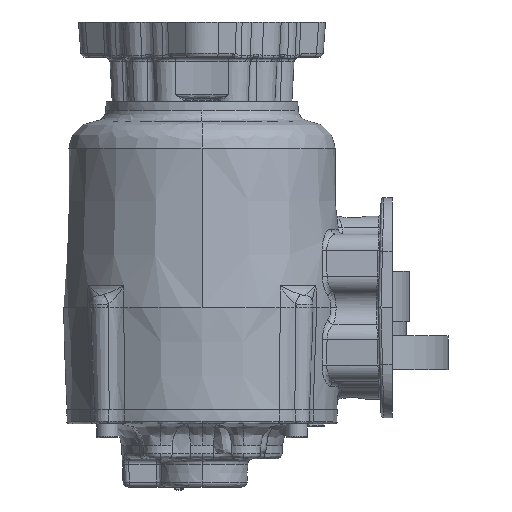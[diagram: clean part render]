
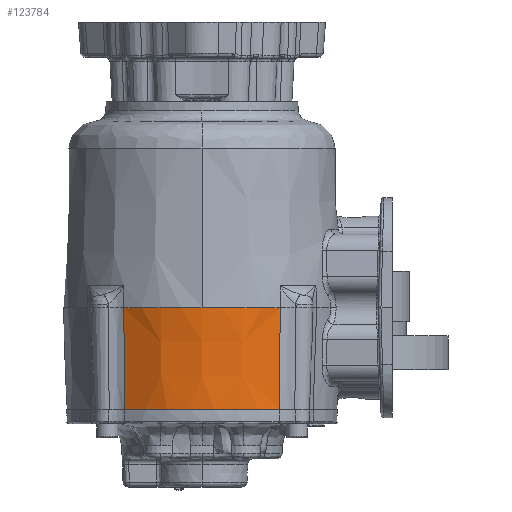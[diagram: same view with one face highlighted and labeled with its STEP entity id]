
A CAD part, left-side view. The second image highlights one B-rep face of the part: STEP entity #123784.
In plain terms, the highlighted conical face has half-angle 2 degrees and reference radius 78.232 mm.
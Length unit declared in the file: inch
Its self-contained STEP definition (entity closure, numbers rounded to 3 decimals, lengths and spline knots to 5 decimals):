
#6646 = DIRECTION ( 'NONE',  ( 1., 0., 0. ) ) ;
#6664 = FACE_OUTER_BOUND ( 'NONE', #142489, .T. ) ;
#6666 = DIRECTION ( 'NONE',  ( 0., 0., 1. ) ) ;
#6667 = CARTESIAN_POINT ( 'NONE',  ( -0.32707, 0.03727, -0.86956 ) ) ;
#14014 = VERTEX_POINT ( 'NONE', #82762 ) ;
#14334 = VERTEX_POINT ( 'NONE', #83100 ) ;
#14932 = VERTEX_POINT ( 'NONE', #83941 ) ;
#14998 = VERTEX_POINT ( 'NONE', #84012 ) ;
#15644 = VERTEX_POINT ( 'NONE', #84548 ) ;
#16620 = B_SPLINE_CURVE_WITH_KNOTS ( 'NONE', 3,
 ( #54836, #54834, #54843, #54845 ),
 .UNSPECIFIED., .F., .F.,
 ( 4, 4 ),
 ( 0., 1. ),
 .UNSPECIFIED. ) ;
#40445 = CARTESIAN_POINT ( 'NONE',  ( -0.32707, 0.03727, -0.86956 ) ) ;
#40446 = DIRECTION ( 'NONE',  ( 0., 0., 1. ) ) ;
#40447 = DIRECTION ( 'NONE',  ( 1., 0., 0. ) ) ;
#47282 = CARTESIAN_POINT ( 'NONE',  ( -2.87096, 1.77365, -0.86956 ) ) ;
#47286 = CARTESIAN_POINT ( 'NONE',  ( -2.84382, 1.76533, -1.64577 ) ) ;
#47308 = CARTESIAN_POINT ( 'NONE',  ( -2.81732, 1.75734, -2.4006 ) ) ;
#47310 = CARTESIAN_POINT ( 'NONE',  ( -2.79144, 1.7497, -3.13406 ) ) ;
#54834 = CARTESIAN_POINT ( 'NONE',  ( -2.81732, -1.6828, -2.4006 ) ) ;
#54836 = CARTESIAN_POINT ( 'NONE',  ( -2.79144, -1.67515, -3.13406 ) ) ;
#54843 = CARTESIAN_POINT ( 'NONE',  ( -2.84382, -1.69078, -1.64577 ) ) ;
#54845 = CARTESIAN_POINT ( 'NONE',  ( -2.87096, -1.6991, -0.86956 ) ) ;
#60511 = ORIENTED_EDGE ( 'NONE', *, *, #145338, .F. ) ;
#60515 = ORIENTED_EDGE ( 'NONE', *, *, #124261, .T. ) ;
#60518 = ORIENTED_EDGE ( 'NONE', *, *, #124294, .F. ) ;
#60529 = ORIENTED_EDGE ( 'NONE', *, *, #124296, .F. ) ;
#60540 = ORIENTED_EDGE ( 'NONE', *, *, #130488, .T. ) ;
#82762 = CARTESIAN_POINT ( 'NONE',  ( -2.79144, -1.67515, -3.13406 ) ) ;
#83100 = CARTESIAN_POINT ( 'NONE',  ( -2.87096, -1.6991, -0.86956 ) ) ;
#83941 = CARTESIAN_POINT ( 'NONE',  ( -2.87096, 1.77365, -0.86956 ) ) ;
#84012 = CARTESIAN_POINT ( 'NONE',  ( -2.79144, 1.7497, -3.13406 ) ) ;
#84548 = CARTESIAN_POINT ( 'NONE',  ( -3.40707, 0.03727, -0.86956 ) ) ;
#99798 = CONICAL_SURFACE ( 'NONE', #99799, 3.08, 0.035 ) ;
#99799 = AXIS2_PLACEMENT_3D ( 'NONE', #6667, #6666, #6646 ) ;
#99980 = CIRCLE ( 'NONE', #99987, 3.00092 ) ;
#99986 = CIRCLE ( 'NONE', #99989, 3.08 ) ;
#99987 = AXIS2_PLACEMENT_3D ( 'NONE', #101446, #101448, #101450 ) ;
#99989 = AXIS2_PLACEMENT_3D ( 'NONE', #101456, #101458, #101460 ) ;
#101446 = CARTESIAN_POINT ( 'NONE',  ( -0.32707, 0.03727, -3.13406 ) ) ;
#101448 = DIRECTION ( 'NONE',  ( 0., 0., -1. ) ) ;
#101450 = DIRECTION ( 'NONE',  ( 1., 0., 0. ) ) ;
#101456 = CARTESIAN_POINT ( 'NONE',  ( -0.32707, 0.03727, -0.86956 ) ) ;
#101458 = DIRECTION ( 'NONE',  ( 0., 0., 1. ) ) ;
#101460 = DIRECTION ( 'NONE',  ( 1., 0., 0. ) ) ;
#110950 = B_SPLINE_CURVE_WITH_KNOTS ( 'NONE', 3,
 ( #47282, #47286, #47308, #47310 ),
 .UNSPECIFIED., .F., .F.,
 ( 4, 4 ),
 ( 0., 1. ),
 .UNSPECIFIED. ) ;
#123772 = CIRCLE ( 'NONE', #123782, 3.08 ) ;
#123782 = AXIS2_PLACEMENT_3D ( 'NONE', #40445, #40446, #40447 ) ;
#123784 = ADVANCED_FACE ( 'NONE', ( #6664 ), #99798, .T. ) ;
#124261 = EDGE_CURVE ( 'NONE', #14932, #14998, #110950, .T. ) ;
#124294 = EDGE_CURVE ( 'NONE', #14014, #14998, #99980, .T. ) ;
#124296 = EDGE_CURVE ( 'NONE', #15644, #14334, #99986, .T. ) ;
#130488 = EDGE_CURVE ( 'NONE', #14014, #14334, #16620, .T. ) ;
#142489 = EDGE_LOOP ( 'NONE', ( #60511, #60515, #60518, #60540, #60529 ) ) ;
#145338 = EDGE_CURVE ( 'NONE', #14932, #15644, #123772, .T. ) ;
